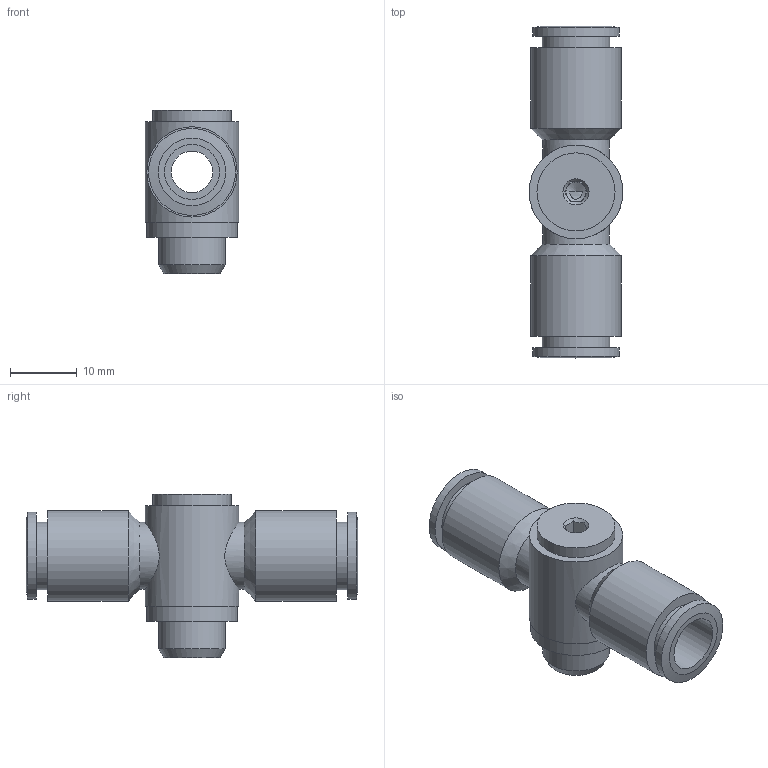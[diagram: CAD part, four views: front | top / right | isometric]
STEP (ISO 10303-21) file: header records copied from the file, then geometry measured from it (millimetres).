
FILE_DESCRIPTION((''),'2;1');
FILE_NAME('C:\Documents and Settings\rivolro1\Documenti\copia di Raccordi\PLASTICA\T16XXXX\T160818.stp','2007-10-31T15:06:42',('Rivolro1'),(''),'Autodesk Inventor 2008','Autodesk Inventor 2008','');
FILE_SCHEMA(('AUTOMOTIVE_DESIGN { 1 0 10303 214 1 1 1 1 }'));
Length unit declared in the file: millimetre
Products named in the file (1): T160818
Bounding box: 14 x 49.6 x 24.5 mm (x, y, z)
Volume: 5542.7 mm3; surface area: 4316.7 mm2
Topology: 1 solids, 1 shells, 50 faces, 105 edges, 67 vertices
Faces by surface type: plane 24, cylinder 13, bspline 8, cone 5
Full cylindrical faces by diameter (mm): 10 x3, 10.1 x2, 11.667 x1, 13 x2, 13.5 x2, 13.6 x1, 14 x1
Entity records: 1467 total; most frequent: CARTESIAN_POINT 485, DIRECTION 186, ORIENTED_EDGE 150, EDGE_LOOP 87, AXIS2_PLACEMENT_3D 83, EDGE_CURVE 75, VERTEX_POINT 62, FACE_OUTER_BOUND 50
